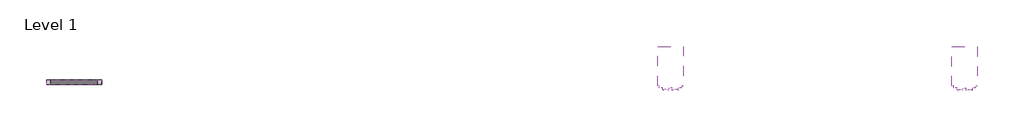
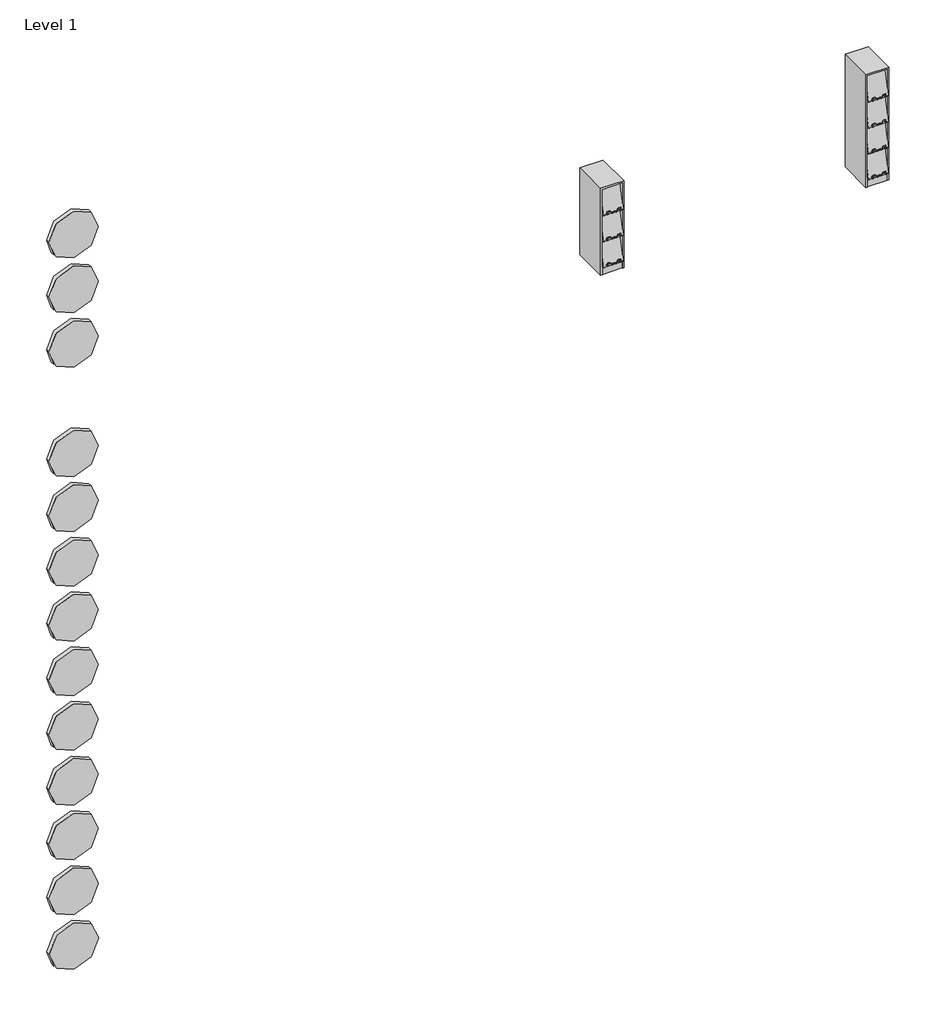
# One storey, incomplete: 13 proxies, 2 furniture elements.
"""IFC4 building model written with IfcOpenShell, lengths in millimetres."""

from ifc_helpers import new_model, si_unit, origin, place, context, project, spatial, transform, mapped, element, save
from components import materialmodel_materialmodel_37012b21, furniture_8734f36b, furniture_9b158ec6, furniture_b15f5bc2, furniture_4d4ee894, furniture_fc0f41f4, furniture_2ce81791

model = new_model("IFC4")

# Units and contexts
model_context = context("Model", 3, world=origin())
ifc_project = project(units=[si_unit("LENGTHUNIT", "METRE", prefix="MILLI")], contexts=[model_context])

# Site, building, storey
site = spatial("IfcSite", under=ifc_project)
building = spatial("IfcBuilding", under=site)
storey = spatial("IfcBuildingStorey", under=building, Name="Level 1", Elevation=0.0)

# Proxies
placement = place(None, origin())
materialmodel_materialmodel_shape = materialmodel_materialmodel_37012b21(model_context)
element("IfcBuildingElementProxy", 1, Name="MaterialModel : MaterialModel", ObjectType="MaterialModel : MaterialModel", at=placement, inside=storey, context=model_context, shape_type="MappedRepresentation", body=[
    mapped(materialmodel_materialmodel_shape, transform((-17867.0147555, 6390.3767321, 5020.7797695), x_axis=(1.0, 0.0, 0.0), y_axis=(0.0, 1.0, 0.0), z_axis=(0.0, 0.0, 1.0))),
])
element("IfcBuildingElementProxy", 2, Name="MaterialModel : MaterialModel", ObjectType="MaterialModel : MaterialModel", at=placement, inside=storey, context=model_context, shape_type="MappedRepresentation", body=[
    mapped(materialmodel_materialmodel_shape, transform((-17867.0147555, 6390.3767321, 5723.0950226), x_axis=(1.0, 0.0, 0.0), y_axis=(0.0, 1.0, 0.0), z_axis=(0.0, 0.0, 1.0))),
])
element("IfcBuildingElementProxy", 3, Name="MaterialModel : MaterialModel", ObjectType="MaterialModel : MaterialModel", at=placement, inside=storey, context=model_context, shape_type="MappedRepresentation", body=[
    mapped(materialmodel_materialmodel_shape, transform((-17867.0147555, 6390.3767321, 2913.8340103), x_axis=(1.0, 0.0, 0.0), y_axis=(0.0, 1.0, 0.0), z_axis=(0.0, 0.0, 1.0))),
])
element("IfcBuildingElementProxy", 4, Name="MaterialModel : MaterialModel", ObjectType="MaterialModel : MaterialModel", at=placement, inside=storey, context=model_context, shape_type="MappedRepresentation", body=[
    mapped(materialmodel_materialmodel_shape, transform((-17867.0147555, 6390.3767321, 4318.4645164), x_axis=(1.0, 0.0, 0.0), y_axis=(0.0, 1.0, 0.0), z_axis=(0.0, 0.0, 1.0))),
])
element("IfcBuildingElementProxy", 5, Name="MaterialModel : MaterialModel", ObjectType="MaterialModel : MaterialModel", at=placement, inside=storey, context=model_context, shape_type="MappedRepresentation", body=[
    mapped(materialmodel_materialmodel_shape, transform((-17867.0147555, 6390.3767321, 1509.2035041), x_axis=(1.0, 0.0, 0.0), y_axis=(0.0, 1.0, 0.0), z_axis=(0.0, 0.0, 1.0))),
])
element("IfcBuildingElementProxy", 6, Name="MaterialModel : MaterialModel", ObjectType="MaterialModel : MaterialModel", at=placement, inside=storey, context=model_context, shape_type="MappedRepresentation", body=[
    mapped(materialmodel_materialmodel_shape, transform((-17867.0147555, 6390.3767321, 2211.5187572), x_axis=(1.0, 0.0, 0.0), y_axis=(0.0, 1.0, 0.0), z_axis=(0.0, 0.0, 1.0))),
])
element("IfcBuildingElementProxy", 7, Name="MaterialModel : MaterialModel", ObjectType="MaterialModel : MaterialModel", at=placement, inside=storey, context=model_context, shape_type="MappedRepresentation", body=[
    mapped(materialmodel_materialmodel_shape, transform((-17867.0147555, 6390.3767321, 104.5729979), x_axis=(1.0, 0.0, 0.0), y_axis=(0.0, 1.0, 0.0), z_axis=(0.0, 0.0, 1.0))),
])
element("IfcBuildingElementProxy", 8, Name="MaterialModel : MaterialModel", ObjectType="MaterialModel : MaterialModel", at=placement, inside=storey, context=model_context, shape_type="MappedRepresentation", body=[
    mapped(materialmodel_materialmodel_shape, transform((-17867.0147555, 6390.3767321, 806.888251), x_axis=(1.0, 0.0, 0.0), y_axis=(0.0, 1.0, 0.0), z_axis=(0.0, 0.0, 1.0))),
])
element("IfcBuildingElementProxy", 9, Name="MaterialModel : MaterialModel", ObjectType="MaterialModel : MaterialModel", at=placement, inside=storey, context=model_context, shape_type="MappedRepresentation", body=[
    mapped(materialmodel_materialmodel_shape, transform((-17867.0147555, 6390.3767321, -1300.0575082), x_axis=(1.0, 0.0, 0.0), y_axis=(0.0, 1.0, 0.0), z_axis=(0.0, 0.0, 1.0))),
])
element("IfcBuildingElementProxy", 10, Name="MaterialModel : MaterialModel", ObjectType="MaterialModel : MaterialModel", at=placement, inside=storey, context=model_context, shape_type="MappedRepresentation", body=[
    mapped(materialmodel_materialmodel_shape, transform((-17867.0147555, 6390.3767321, -597.7422552), x_axis=(1.0, 0.0, 0.0), y_axis=(0.0, 1.0, 0.0), z_axis=(0.0, 0.0, 1.0))),
])
element("IfcBuildingElementProxy", 11, Name="MaterialModel : MaterialModel", ObjectType="MaterialModel : MaterialModel", at=placement, inside=storey, context=model_context, shape_type="MappedRepresentation", body=[
    mapped(materialmodel_materialmodel_shape, transform((-17867.0147555, 6390.3767321, -2704.6880144), x_axis=(1.0, 0.0, 0.0), y_axis=(0.0, 1.0, 0.0), z_axis=(0.0, 0.0, 1.0))),
])
element("IfcBuildingElementProxy", 12, Name="MaterialModel : MaterialModel", ObjectType="MaterialModel : MaterialModel", at=placement, inside=storey, context=model_context, shape_type="MappedRepresentation", body=[
    mapped(materialmodel_materialmodel_shape, transform((-17867.0147555, 6390.3767321, -2002.3727613), x_axis=(1.0, 0.0, 0.0), y_axis=(0.0, 1.0, 0.0), z_axis=(0.0, 0.0, 1.0))),
])
element("IfcBuildingElementProxy", 13, Name="MaterialModel : MaterialModel", ObjectType="MaterialModel : MaterialModel", at=placement, inside=storey, context=model_context, shape_type="MappedRepresentation", body=[
    mapped(materialmodel_materialmodel_shape, transform((-17862.8693038, 6390.3767321, -3407.0032675), x_axis=(1.0, 0.0, 0.0), y_axis=(0.0, 1.0, 0.0), z_axis=(0.0, 0.0, 1.0))),
])

# Furniture
furniture_shape = furniture_8734f36b(model_context)
furniture_2_shape = furniture_9b158ec6(model_context)
furniture_3_shape = furniture_b15f5bc2(model_context)
furniture_4_shape = furniture_4d4ee894(model_context)
element("IfcFurniture", 14, ObjectType="BK Library - Mag-Mag - 1440 - 1 Collum : BK Library - Mag-Mag - 1440 - 1 Collum", at=placement, inside=storey, context=model_context, shape_type="MappedRepresentation", body=[
    mapped(furniture_shape, transform((-8115.8697796, 6538.3767227, 3273.9383366), x_axis=(1.0, 0.0, 0.0), y_axis=(0.0, 1.0, 0.0), z_axis=(0.0, 0.0, 1.0))),
    mapped(furniture_2_shape, transform((-8115.8697796, 6538.3767227, 3273.9383366), x_axis=(1.0, 0.0, 0.0), y_axis=(0.0, 1.0, 0.0), z_axis=(0.0, 0.0, 1.0))),
    mapped(furniture_3_shape, transform((-8115.8697796, 6538.3767227, 3273.9383366), x_axis=(1.0, 0.0, 0.0), y_axis=(0.0, 1.0, 0.0), z_axis=(0.0, 0.0, 1.0))),
    mapped(furniture_4_shape, transform((-8115.8697796, 6538.3767227, 3273.9383366), x_axis=(1.0, 0.0, 0.0), y_axis=(0.0, 1.0, 0.0), z_axis=(0.0, 0.0, 1.0))),
])
furniture_5_shape = furniture_fc0f41f4(model_context)
furniture_6_shape = furniture_2ce81791(model_context)
element("IfcFurniture", 15, ObjectType="BK Library - Mag-Mag - 1110 - 1 Collum : BK Library - Mag-Mag - 1110 - 1 Collum", at=placement, inside=storey, context=model_context, shape_type="MappedRepresentation", body=[
    mapped(furniture_5_shape, transform((-11335.8697796, 6539.3767164, 3273.9383366), x_axis=(1.0, 0.0, 0.0), y_axis=(0.0, 1.0, 0.0), z_axis=(0.0, 0.0, 1.0))),
    mapped(furniture_2_shape, transform((-11335.8697796, 6539.3767164, 3273.9383366), x_axis=(1.0, 0.0, 0.0), y_axis=(0.0, 1.0, 0.0), z_axis=(0.0, 0.0, 1.0))),
    mapped(furniture_6_shape, transform((-11335.8697796, 6539.3767164, 3273.9383366), x_axis=(1.0, 0.0, 0.0), y_axis=(0.0, 1.0, 0.0), z_axis=(0.0, 0.0, 1.0))),
])

save(model, "model.ifc")
